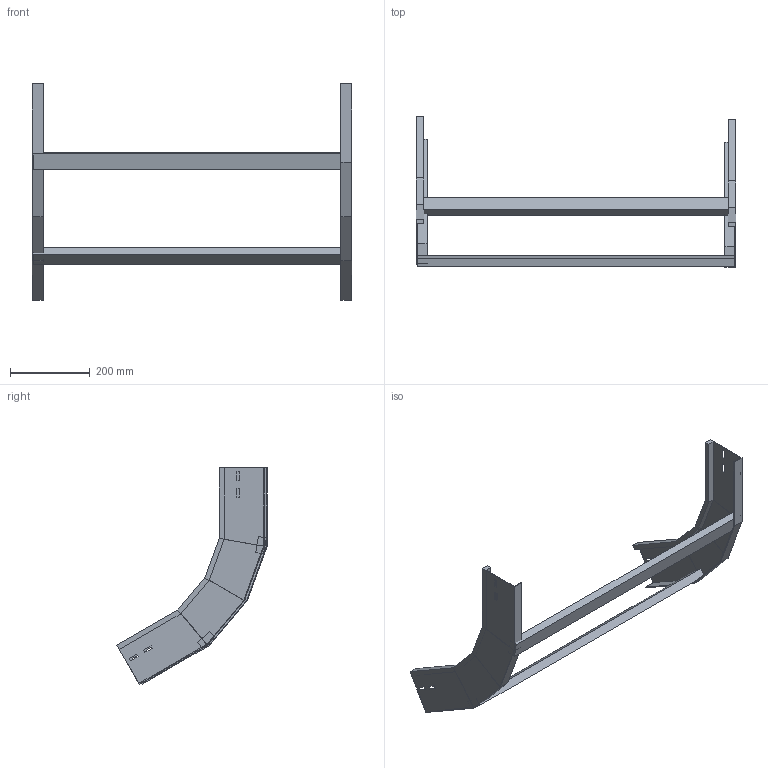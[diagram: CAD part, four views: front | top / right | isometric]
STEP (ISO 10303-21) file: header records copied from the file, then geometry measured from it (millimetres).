
FILE_DESCRIPTION (( 'STEP AP214' ), '1' );
FILE_NAME ('A2X40B3J800XX.step', '2025-04-02T10:24:33', ( '' ), ( '' ), 'SwSTEP 2.0', 'SolidWorks 2023', '' );
FILE_SCHEMA (( 'AUTOMOTIVE_DESIGN' ));
Length unit declared in the file: millimetre
Products named in the file (3): A2X40B3J800XX; TRAVERSINO_800; LONGH.SALITA_60°_H112.5_R300
Assembly tree (4 placements, depth 2):
  A2X40B3J800XX
    LONGH.SALITA_60°_H112.5_R300  x2
    TRAVERSINO_800  x2
Bounding box: 800 x 376.69 x 542.06 mm (x, y, z)
Volume: 1854826.1 mm3; surface area: 586457.4 mm2
Topology: 4 solids, 4 shells, 112 faces, 264 edges, 160 vertices
Faces by surface type: plane 112
Entity records: 1664 total; most frequent: CARTESIAN_POINT 275, ORIENTED_EDGE 264, DIRECTION 258, LINE 132, EDGE_CURVE 132, VECTOR 132, VERTEX_POINT 80, EDGE_LOOP 64
